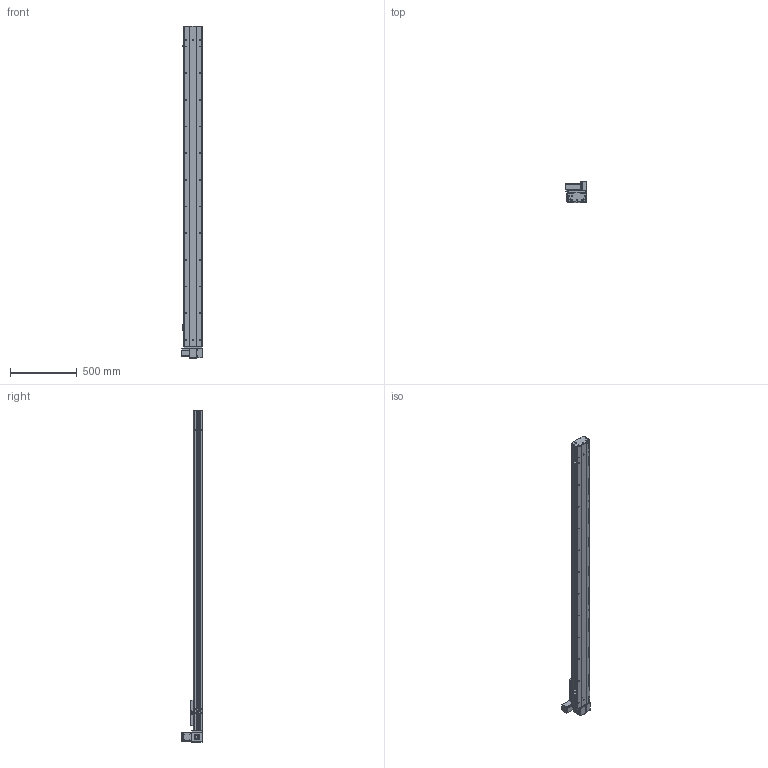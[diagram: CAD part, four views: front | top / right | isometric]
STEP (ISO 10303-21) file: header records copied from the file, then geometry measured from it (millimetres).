
FILE_DESCRIPTION (( 'STEP AP203' ), '1' );
FILE_NAME ('Y135CB-D90-S2100-UL-P400W.STEP', '2020-02-18T07:53:27', ( '微软用户' ), ( '微软中国' ), 'SwSTEP 2.0', 'SolidWorks 2017', '' );
FILE_SCHEMA (( 'CONFIG_CONTROL_DESIGN' ));
Length unit declared in the file: millimetre
Products named in the file (18): Y10B--々湍喘謫眊--666; C-詩湍揤踡え-陔; Y135CB-耜裔; Y135CB-D90-S2100-UL-P400W; 135CB--詩湍-CE; 135CB---遴掛极.-; Y100-135俋离換覜ん--; 35CB---喘謫眊楊擘啣; Y135C-陔俋离換覜結え-; 0B-埴倛裔啣; 5C--俋欶; 0B-源倛裔啣; C-雄赽釱--; 0B-萇儂楊擘啣; Y10B-耜蚾蟀諉啣----; san松下电机400不带刹车----; 00B-俋欶BM--; 5CB --掛极耜裔啣-
Assembly tree (21 placements, depth 2):
  Y135CB-D90-S2100-UL-P400W
    Y135CB-耜裔
    135CB---遴掛极.-
    35CB---喘謫眊楊擘啣
    0B-埴倛裔啣
    0B-源倛裔啣
    0B-萇儂楊擘啣
    san松下电机400不带刹车----
    5CB --掛极耜裔啣-  x2
    C-詩湍揤踡え-陔  x2
    135CB--詩湍-CE
    Y100-135俋离換覜ん--  x3
    Y135C-陔俋离換覜結え-
    5C--俋欶
    C-雄赽釱--
    Y10B-耜蚾蟀諉啣----
    00B-俋欶BM--
    Y10B--々湍喘謫眊--666
Bounding box: 157 x 158.7 x 2488 mm (x, y, z)
Volume: 7242941.2 mm3; surface area: 2863046.3 mm2
Topology: 21 solids, 21 shells, 969 faces, 2635 edges, 1746 vertices
Faces by surface type: cylinder 497, plane 456, cone 16
Entity records: 30561 total; most frequent: DIRECTION 5079, CARTESIAN_POINT 5076, ORIENTED_EDGE 4746, EDGE_CURVE 2373, AXIS2_PLACEMENT_3D 1861, VERTEX_POINT 1574, VECTOR 1357, LINE 1357
